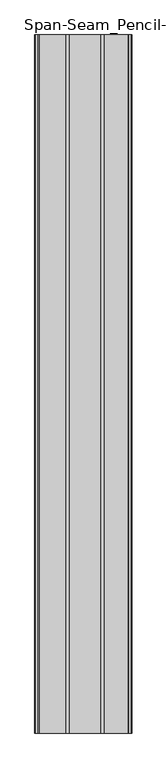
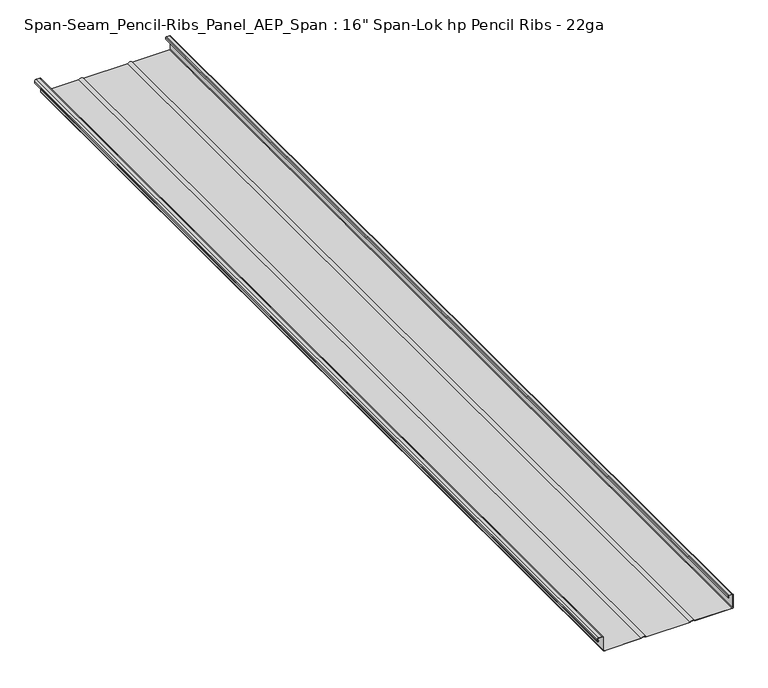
"""IFC4 building model written with IfcOpenShell, lengths in millimetres: proxy geometry."""

from ifc_helpers import new_model, si_unit, point, frame, frame_2d, origin, place, context, project, spatial, polyline, circle_curve, trimmed, segment, composite_curve, outline, extrude, source, transform, mapped, element, save


def proxy_93f6b263(model_context):
    return source(origin(), model_context, "Body", "SweptSolid", [
        extrude(outline(composite_curve([segment(polyline([(44.3801219, 188.0838346), (38.8842004, 188.0838346), (38.8842004, 188.8653225), (44.3801219, 188.8305946)]), True, "CONTINUOUS"), segment(trimmed(circle_curve(frame_2d((44.3801219, 190.6936829)), 1.8630883), [point((44.3801219, 188.8305946))], [point((46.2432103, 190.6936829))], True, "CARTESIAN"), True, "CONTINUOUS"), segment(polyline([(46.2432103, 190.6936829), (46.2432103, 200.5901517)]), True, "CONTINUOUS"), segment(trimmed(circle_curve(frame_2d((44.3801219, 200.5901517)), 1.8630883), [point((46.2432103, 200.5901517))], [point((44.3801219, 202.45324))], True, "CARTESIAN"), True, "CONTINUOUS"), segment(polyline([(44.3801219, 202.45324), (2.6098483, 202.45324)]), True, "CONTINUOUS"), segment(trimmed(circle_curve(frame_2d((2.6098483, 200.5901517)), 1.8630883), [point((2.6098483, 202.45324))], [point((0.74676, 200.5901517))], True, "CARTESIAN"), True, "CONTINUOUS"), segment(polyline([(0.74676, 200.5901517), (0.74676, 83.7334863)]), True, "CONTINUOUS"), segment(trimmed(circle_curve(frame_2d((-7.3726153, 76.2852201)), 11.0182088), [point((0.74676, 83.7334863))], [point((0.74676, 68.8369539))], False, "CARTESIAN"), True, "CONTINUOUS"), segment(polyline([(0.74676, 68.8369539), (0.74676, -68.8366967)]), True, "CONTINUOUS"), segment(trimmed(circle_curve(frame_2d((-7.3726153, -76.2849629)), 11.0182088), [point((0.74676, -68.8366967))], [point((0.74676, -83.7332291))], False, "CARTESIAN"), True, "CONTINUOUS"), segment(polyline([(0.74676, -83.7332291), (0.74676, -200.5898945)]), True, "CONTINUOUS"), segment(trimmed(circle_curve(frame_2d((2.6098483, -200.5898945)), 1.8630883), [point((0.74676, -200.5898945))], [point((2.6098483, -202.4529828))], True, "CARTESIAN"), True, "CONTINUOUS"), segment(polyline([(2.6098483, -202.4529828), (44.8373216, -202.4529828)]), True, "CONTINUOUS"), segment(trimmed(circle_curve(frame_2d((44.8373216, -206.3810908)), 3.928108), [point((44.8373216, -202.4529828))], [point((48.7654296, -206.3810908))], False, "CARTESIAN"), True, "CONTINUOUS"), segment(polyline([(48.7654296, -206.3810908), (48.7654296, -217.191959)]), True, "CONTINUOUS"), segment(trimmed(circle_curve(frame_2d((44.8373216, -217.191959)), 3.928108), [point((48.7654296, -217.191959))], [point((44.8373216, -221.120067))], False, "CARTESIAN"), True, "CONTINUOUS"), segment(polyline([(44.8373216, -221.120067), (37.8697862, -221.120067)]), True, "CONTINUOUS"), segment(trimmed(circle_curve(frame_2d((37.8697862, -219.5553682)), 1.5646987), [point((37.8697862, -221.120067))], [point((36.7705435, -218.4418389))], False, "CARTESIAN"), True, "CONTINUOUS"), segment(polyline([(36.7705435, -218.4418389), (38.4174757, -216.8160368), (38.9679874, -217.3737033), (37.2951624, -218.9732762)]), True, "CONTINUOUS"), segment(trimmed(circle_curve(frame_2d((37.8697862, -219.5553682)), 0.8179387), [point((37.2951624, -218.9732762))], [point((37.8697862, -220.373307))], True, "CARTESIAN"), True, "CONTINUOUS"), segment(polyline([(37.8697862, -220.373307), (44.8373216, -220.373307)]), True, "CONTINUOUS"), segment(trimmed(circle_curve(frame_2d((44.8373216, -217.191959)), 3.181348), [point((44.8373216, -220.373307))], [point((48.0186696, -217.191959))], True, "CARTESIAN"), True, "CONTINUOUS"), segment(polyline([(48.0186696, -217.191959), (48.0186696, -206.381348)]), True, "CONTINUOUS"), segment(trimmed(circle_curve(frame_2d((44.8373216, -206.381348)), 3.181348), [point((48.0186696, -206.381348))], [point((44.8373216, -203.2))], True, "CARTESIAN"), True, "CONTINUOUS"), segment(polyline([(44.8373216, -203.2), (2.6098483, -203.2)]), True, "CONTINUOUS"), segment(trimmed(circle_curve(frame_2d((2.6098483, -200.5901517)), 2.6098483), [point((2.6098483, -203.2))], [point((0.0, -200.5901517))], False, "CARTESIAN"), True, "CONTINUOUS"), segment(polyline([(0.0, -200.5901517), (0.0, -83.4366903)]), True, "CONTINUOUS"), segment(trimmed(circle_curve(frame_2d((-7.3726153, -76.2849629)), 10.2714488), [point((0.0, -83.4366903))], [point((0.0, -69.1332356))], True, "CARTESIAN"), True, "CONTINUOUS"), segment(polyline([(0.0, -69.1332356), (0.0, 69.1334928)]), True, "CONTINUOUS"), segment(trimmed(circle_curve(frame_2d((-7.3726153, 76.2852201)), 10.2714488), [point((0.0, 69.1334928))], [point((0.0, 83.4369474))], True, "CARTESIAN"), True, "CONTINUOUS"), segment(polyline([(0.0, 83.4369474), (0.0, 200.5901517)]), True, "CONTINUOUS"), segment(trimmed(circle_curve(frame_2d((2.6098483, 200.5901517)), 2.6098483), [point((0.0, 200.5901517))], [point((2.6098483, 203.2))], False, "CARTESIAN"), True, "CONTINUOUS"), segment(polyline([(2.6098483, 203.2), (44.3801219, 203.2)]), True, "CONTINUOUS"), segment(trimmed(circle_curve(frame_2d((44.3801219, 200.5901517)), 2.6098483), [point((44.3801219, 203.2))], [point((46.9899703, 200.5901517))], False, "CARTESIAN"), True, "CONTINUOUS"), segment(polyline([(46.9899703, 200.5901517), (46.9899703, 190.6936829)]), True, "CONTINUOUS"), segment(trimmed(circle_curve(frame_2d((44.3801219, 190.6936829)), 2.6098483), [point((46.9899703, 190.6936829))], [point((44.3801219, 188.0838346))], False, "CARTESIAN"), True, "CONTINUOUS")], self_intersect=False)), frame((0.0, -3048.0, 0.0), z_axis=(0.0, 1.0, 0.0), x_axis=(0.0, 0.0, 1.0)), (0.0, 0.0, 1.0), 3048.0),
    ])


if __name__ == "__main__":
    model = new_model("IFC4")
    model_context = context("Model", 3, world=origin())
    ifc_project = project(units=[si_unit("LENGTHUNIT", "METRE", prefix="MILLI")], contexts=[model_context])
    site = spatial("IfcSite", under=ifc_project)
    building = spatial("IfcBuilding", under=site)
    placement = place(None, origin())
    proxy_shape = proxy_93f6b263(model_context)
    element("IfcBuildingElementProxy", 1, Name="Span-Seam_Pencil-Ribs_Panel_AEP_Span : 16\" Span-Lok hp Pencil Ribs - 22ga", ObjectType="Span-Seam_Pencil-Ribs_Panel_AEP_Span : 16\" Span-Lok hp Pencil Ribs - 22ga", at=placement, inside=building, context=model_context, shape_type="MappedRepresentation", body=[
        mapped(proxy_shape, transform((0.0, 0.0, 0.0), x_axis=(1.0, 0.0, 0.0), y_axis=(0.0, 1.0, 0.0), z_axis=(0.0, 0.0, 1.0))),
    ])
    save(model, "model.ifc")
